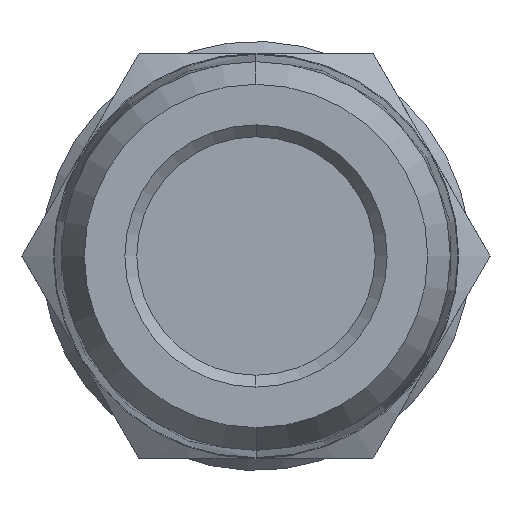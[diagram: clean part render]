
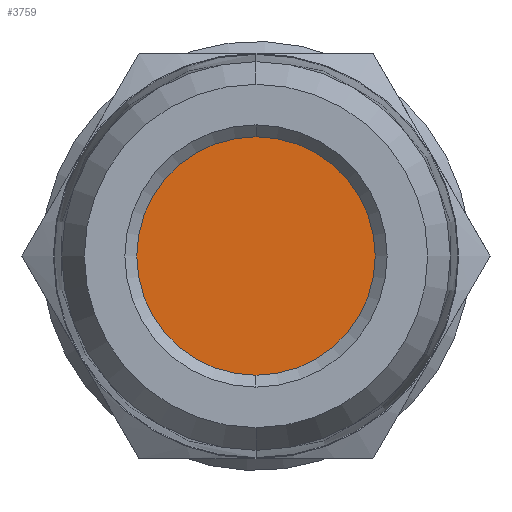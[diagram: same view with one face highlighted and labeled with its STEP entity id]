
A CAD part, front view. The second image highlights one B-rep face of the part: STEP entity #3759.
In plain terms, the highlighted planar face has unit normal (0, -1, 0).
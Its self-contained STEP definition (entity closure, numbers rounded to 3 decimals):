
#49 = FACE_OUTER_BOUND ( 'NONE', #4031, .T. ) ;
#506 = CIRCLE ( 'NONE', #2500, 5. ) ;
#825 = CARTESIAN_POINT ( 'NONE',  ( 0., -19.855, 0. ) ) ;
#826 = DIRECTION ( 'NONE',  ( 0., -1., 0. ) ) ;
#827 = DIRECTION ( 'NONE',  ( 0., 0., -1. ) ) ;
#1373 = EDGE_CURVE ( 'NONE', #3521, #3519, #3664, .T. ) ;
#1576 = CARTESIAN_POINT ( 'NONE',  ( 0., -19.855, 0. ) ) ;
#1577 = DIRECTION ( 'NONE',  ( 0., -1., 0. ) ) ;
#1578 = DIRECTION ( 'NONE',  ( 0., 0., -1. ) ) ;
#1924 = PLANE ( 'NONE',  #2576 ) ;
#1932 = CARTESIAN_POINT ( 'NONE',  ( 0., -19.855, 0. ) ) ;
#1933 = DIRECTION ( 'NONE',  ( 0., -1., 0. ) ) ;
#1934 = DIRECTION ( 'NONE',  ( 0., 0., -1. ) ) ;
#2224 = EDGE_CURVE ( 'NONE', #3519, #3521, #506, .T. ) ;
#2467 = AXIS2_PLACEMENT_3D ( 'NONE', #825, #826, #827 ) ;
#2500 = AXIS2_PLACEMENT_3D ( 'NONE', #1576, #1577, #1578 ) ;
#2576 = AXIS2_PLACEMENT_3D ( 'NONE', #1932, #1933, #1934 ) ;
#2730 = CARTESIAN_POINT ( 'NONE',  ( 0., -19.855, -5. ) ) ;
#2738 = CARTESIAN_POINT ( 'NONE',  ( 0., -19.855, 5. ) ) ;
#3517 = ORIENTED_EDGE ( 'NONE', *, *, #1373, .T. ) ;
#3518 = ORIENTED_EDGE ( 'NONE', *, *, #2224, .T. ) ;
#3519 = VERTEX_POINT ( 'NONE', #2738 ) ;
#3521 = VERTEX_POINT ( 'NONE', #2730 ) ;
#3664 = CIRCLE ( 'NONE', #2467, 5. ) ;
#3759 = ADVANCED_FACE ( 'NONE', ( #49 ), #1924, .T. ) ;
#4031 = EDGE_LOOP ( 'NONE', ( #3517, #3518 ) ) ;
